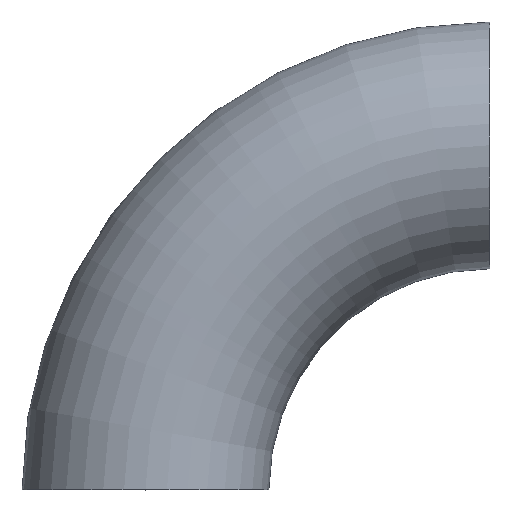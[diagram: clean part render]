
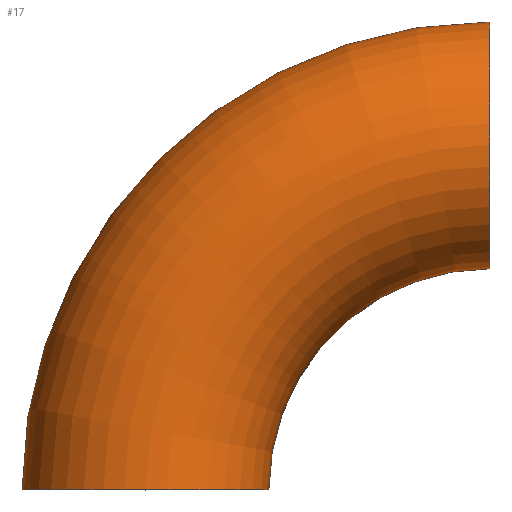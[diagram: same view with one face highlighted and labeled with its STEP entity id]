
A CAD part, top view. The second image highlights one B-rep face of the part: STEP entity #17.
In plain terms, the highlighted toroidal (fillet/blend) face has major radius 381 mm and minor radius 136.5 mm.
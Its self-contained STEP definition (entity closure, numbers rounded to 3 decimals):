
#1 = AXIS2_PLACEMENT_3D ( 'NONE', #57, #26, #250 ) ;
#3 = CARTESIAN_POINT ( 'NONE',  ( 381., 244.5, 0. ) ) ;
#6 = DIRECTION ( 'NONE',  ( 1., 0., 0. ) ) ;
#7 = DIRECTION ( 'NONE',  ( 0., 0., 1. ) ) ;
#8 = DIRECTION ( 'NONE',  ( 0., 0., 1. ) ) ;
#10 = EDGE_LOOP ( 'NONE', ( #72, #41, #138, #79 ) ) ;
#17 = ADVANCED_FACE ( 'NONE', ( #111 ), #110, .T. ) ;
#26 = DIRECTION ( 'NONE',  ( 0., 0., 1. ) ) ;
#28 = CIRCLE ( 'NONE', #188, 136.5 ) ;
#36 = VERTEX_POINT ( 'NONE', #233 ) ;
#41 = ORIENTED_EDGE ( 'NONE', *, *, #207, .T. ) ;
#57 = CARTESIAN_POINT ( 'NONE',  ( 381., 0., 0. ) ) ;
#63 = DIRECTION ( 'NONE',  ( 0., 0., 1. ) ) ;
#72 = ORIENTED_EDGE ( 'NONE', *, *, #122, .F. ) ;
#79 = ORIENTED_EDGE ( 'NONE', *, *, #245, .F. ) ;
#85 = DIRECTION ( 'NONE',  ( 1., 0., 0. ) ) ;
#98 = CARTESIAN_POINT ( 'NONE',  ( 0., 0., 0. ) ) ;
#110 = TOROIDAL_SURFACE ( 'NONE', #1, 381., 136.5 ) ;
#111 = FACE_OUTER_BOUND ( 'NONE', #10, .T. ) ;
#122 = EDGE_CURVE ( 'NONE', #36, #151, #208, .T. ) ;
#123 = CARTESIAN_POINT ( 'NONE',  ( 381., 381., 0. ) ) ;
#125 = DIRECTION ( 'NONE',  ( 0., 0., 1. ) ) ;
#126 = DIRECTION ( 'NONE',  ( 0., 1., 0. ) ) ;
#138 = ORIENTED_EDGE ( 'NONE', *, *, #172, .T. ) ;
#144 = VERTEX_POINT ( 'NONE', #242 ) ;
#151 = VERTEX_POINT ( 'NONE', #3 ) ;
#152 = AXIS2_PLACEMENT_3D ( 'NONE', #197, #125, #181 ) ;
#172 = EDGE_CURVE ( 'NONE', #179, #144, #28, .T. ) ;
#174 = AXIS2_PLACEMENT_3D ( 'NONE', #123, #6, #7 ) ;
#179 = VERTEX_POINT ( 'NONE', #195 ) ;
#181 = DIRECTION ( 'NONE',  ( 1., 0., 0. ) ) ;
#188 = AXIS2_PLACEMENT_3D ( 'NONE', #98, #126, #63 ) ;
#195 = CARTESIAN_POINT ( 'NONE',  ( -136.5, 0., 0. ) ) ;
#197 = CARTESIAN_POINT ( 'NONE',  ( 381., 0., 0. ) ) ;
#207 = EDGE_CURVE ( 'NONE', #36, #179, #218, .T. ) ;
#208 = CIRCLE ( 'NONE', #174, 136.5 ) ;
#214 = CIRCLE ( 'NONE', #225, 244.5 ) ;
#216 = CARTESIAN_POINT ( 'NONE',  ( 381., 0., 0. ) ) ;
#218 = CIRCLE ( 'NONE', #152, 517.5 ) ;
#225 = AXIS2_PLACEMENT_3D ( 'NONE', #216, #8, #85 ) ;
#233 = CARTESIAN_POINT ( 'NONE',  ( 381., 517.5, 0. ) ) ;
#242 = CARTESIAN_POINT ( 'NONE',  ( 136.5, 0., 0. ) ) ;
#245 = EDGE_CURVE ( 'NONE', #151, #144, #214, .T. ) ;
#250 = DIRECTION ( 'NONE',  ( 1., 0., 0. ) ) ;
